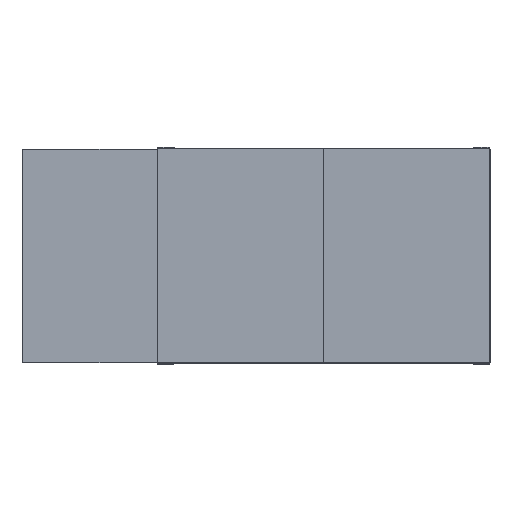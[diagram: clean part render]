
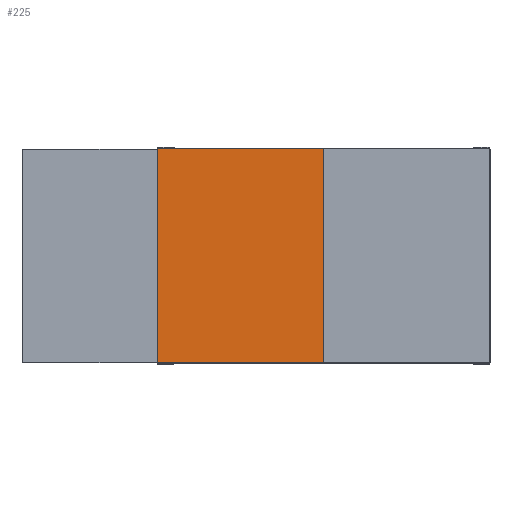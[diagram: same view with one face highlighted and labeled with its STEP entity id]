
A CAD part, top view. The second image highlights one B-rep face of the part: STEP entity #225.
In plain terms, the highlighted planar face has unit normal (0, 0, 1).
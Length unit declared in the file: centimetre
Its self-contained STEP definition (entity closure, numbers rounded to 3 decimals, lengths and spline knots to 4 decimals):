
#225=ADVANCED_FACE($,(#407),#2329,.T.);
#407=FACE_OUTER_BOUND($,#589,.T.);
#589=EDGE_LOOP($,(#1278,#1279,#1280,#1281));
#1278=ORIENTED_EDGE($,*,*,#1815,.T.);
#1279=ORIENTED_EDGE($,*,*,#1823,.F.);
#1280=ORIENTED_EDGE($,*,*,#1820,.F.);
#1281=ORIENTED_EDGE($,*,*,#1824,.F.);
#1815=EDGE_CURVE($,#2135,#2136,#2651,.T.);
#1820=EDGE_CURVE($,#2140,#2141,#2656,.T.);
#1823=EDGE_CURVE($,#2141,#2136,#2659,.T.);
#1824=EDGE_CURVE($,#2135,#2140,#2660,.T.);
#2135=VERTEX_POINT($,#5385);
#2136=VERTEX_POINT($,#5386);
#2140=VERTEX_POINT($,#5390);
#2141=VERTEX_POINT($,#5391);
#2329=PLANE($,#2981);
#2651=B_SPLINE_CURVE_WITH_KNOTS($,3,(#5346,#5347,#5348,#5349),.UNSPECIFIED.,
.F.,.F.,(4,4),(0.,89.6),.UNSPECIFIED.);
#2656=B_SPLINE_CURVE_WITH_KNOTS($,1,(#5358,#5359),.UNSPECIFIED.,.F.,.F.,
(2,2),(-896.,0.),.UNSPECIFIED.);
#2659=B_SPLINE_CURVE_WITH_KNOTS($,1,(#5364,#5365),.UNSPECIFIED.,.F.,.F.,
(2,2),(-1790.,-1095.),.UNSPECIFIED.);
#2660=B_SPLINE_CURVE_WITH_KNOTS($,1,(#5366,#5367),.UNSPECIFIED.,.F.,.F.,
(2,2),(-695.,0.),.UNSPECIFIED.);
#2981=AXIS2_PLACEMENT_3D($,#5379,#3146,$);
#3146=DIRECTION($,(0.,0.,1.));
#5346=CARTESIAN_POINT($,(-558.95,-38.7,75.0514));
#5347=CARTESIAN_POINT($,(-558.95,-8.8333,75.0514));
#5348=CARTESIAN_POINT($,(-558.95,21.0333,75.0514));
#5349=CARTESIAN_POINT($,(-558.95,50.9,75.0514));
#5358=CARTESIAN_POINT($,(-628.45,-38.7,75.0514));
#5359=CARTESIAN_POINT($,(-628.45,50.9,75.0514));
#5364=CARTESIAN_POINT($,(-628.45,50.9,75.0514));
#5365=CARTESIAN_POINT($,(-558.95,50.9,75.0514));
#5366=CARTESIAN_POINT($,(-558.95,-38.7,75.0514));
#5367=CARTESIAN_POINT($,(-628.45,-38.7,75.0514));
#5379=CARTESIAN_POINT($,(-628.45,50.9,75.0514));
#5385=CARTESIAN_POINT($,(-558.95,-38.7,75.0514));
#5386=CARTESIAN_POINT($,(-558.95,50.9,75.0514));
#5390=CARTESIAN_POINT($,(-628.45,-38.7,75.0514));
#5391=CARTESIAN_POINT($,(-628.45,50.9,75.0514));
